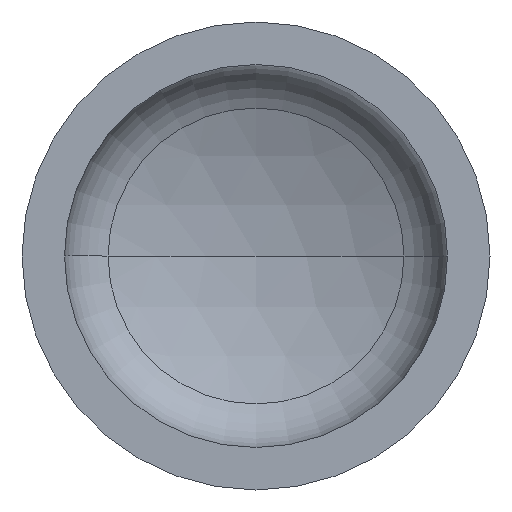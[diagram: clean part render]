
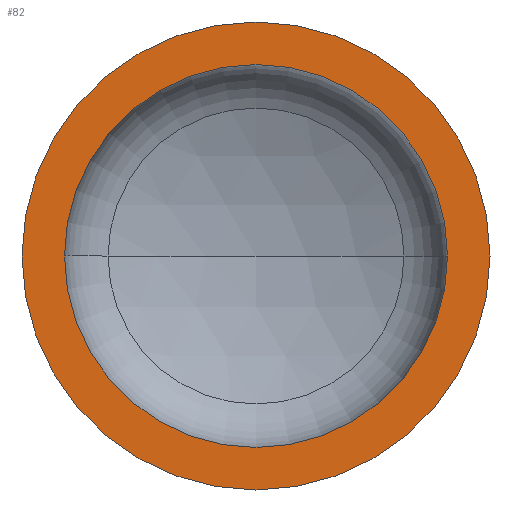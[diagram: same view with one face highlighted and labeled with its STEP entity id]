
A CAD part, front view. The second image highlights one B-rep face of the part: STEP entity #82.
In plain terms, the highlighted planar face has unit normal (0, -1, 0).
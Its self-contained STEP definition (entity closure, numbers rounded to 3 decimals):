
#4 = AXIS2_PLACEMENT_3D ( 'NONE', #364, #134, #307 ) ;
#7 = CIRCLE ( 'NONE', #31, 532. ) ;
#9 = VERTEX_POINT ( 'NONE', #252 ) ;
#12 = EDGE_LOOP ( 'NONE', ( #153, #40 ) ) ;
#31 = AXIS2_PLACEMENT_3D ( 'NONE', #181, #260, #302 ) ;
#40 = ORIENTED_EDGE ( 'NONE', *, *, #101, .T. ) ;
#61 = VERTEX_POINT ( 'NONE', #250 ) ;
#62 = EDGE_LOOP ( 'NONE', ( #85, #103 ) ) ;
#81 = AXIS2_PLACEMENT_3D ( 'NONE', #161, #376, #378 ) ;
#82 = ADVANCED_FACE ( 'NONE', ( #280, #148 ), #244, .F. ) ;
#83 = AXIS2_PLACEMENT_3D ( 'NONE', #357, #354, #352 ) ;
#85 = ORIENTED_EDGE ( 'NONE', *, *, #105, .F. ) ;
#91 = AXIS2_PLACEMENT_3D ( 'NONE', #296, #243, #242 ) ;
#101 = EDGE_CURVE ( 'NONE', #61, #106, #339, .T. ) ;
#102 = VERTEX_POINT ( 'NONE', #322 ) ;
#103 = ORIENTED_EDGE ( 'NONE', *, *, #348, .F. ) ;
#105 = EDGE_CURVE ( 'NONE', #102, #9, #274, .T. ) ;
#106 = VERTEX_POINT ( 'NONE', #359 ) ;
#134 = DIRECTION ( 'NONE',  ( 0., -1., 0. ) ) ;
#148 = FACE_OUTER_BOUND ( 'NONE', #12, .T. ) ;
#153 = ORIENTED_EDGE ( 'NONE', *, *, #380, .T. ) ;
#161 = CARTESIAN_POINT ( 'NONE',  ( 0., 0., 0. ) ) ;
#181 = CARTESIAN_POINT ( 'NONE',  ( 0., 0., 0. ) ) ;
#242 = DIRECTION ( 'NONE',  ( -1., 0., 0. ) ) ;
#243 = DIRECTION ( 'NONE',  ( 0., 1., 0. ) ) ;
#244 = PLANE ( 'NONE',  #91 ) ;
#250 = CARTESIAN_POINT ( 'NONE',  ( -650., 0., 0. ) ) ;
#252 = CARTESIAN_POINT ( 'NONE',  ( -532., 0., 0. ) ) ;
#260 = DIRECTION ( 'NONE',  ( 0., -1., 0. ) ) ;
#274 = CIRCLE ( 'NONE', #81, 532. ) ;
#280 = FACE_BOUND ( 'NONE', #62, .T. ) ;
#296 = CARTESIAN_POINT ( 'NONE',  ( -650., 0., 0. ) ) ;
#302 = DIRECTION ( 'NONE',  ( 1., 0., 0. ) ) ;
#307 = DIRECTION ( 'NONE',  ( 1., 0., 0. ) ) ;
#322 = CARTESIAN_POINT ( 'NONE',  ( 532., 0., 0. ) ) ;
#333 = CIRCLE ( 'NONE', #4, 650. ) ;
#339 = CIRCLE ( 'NONE', #83, 650. ) ;
#348 = EDGE_CURVE ( 'NONE', #9, #102, #7, .T. ) ;
#352 = DIRECTION ( 'NONE',  ( 1., 0., 0. ) ) ;
#354 = DIRECTION ( 'NONE',  ( 0., -1., 0. ) ) ;
#357 = CARTESIAN_POINT ( 'NONE',  ( 0., 0., 0. ) ) ;
#359 = CARTESIAN_POINT ( 'NONE',  ( 650., 0., 0. ) ) ;
#364 = CARTESIAN_POINT ( 'NONE',  ( 0., 0., 0. ) ) ;
#376 = DIRECTION ( 'NONE',  ( 0., -1., 0. ) ) ;
#378 = DIRECTION ( 'NONE',  ( 1., 0., 0. ) ) ;
#380 = EDGE_CURVE ( 'NONE', #106, #61, #333, .T. ) ;
